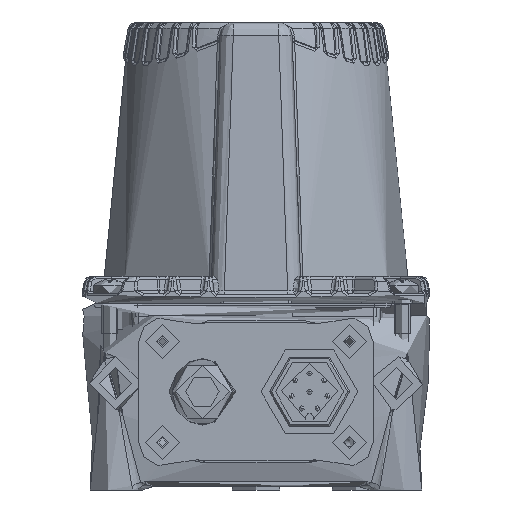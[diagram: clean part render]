
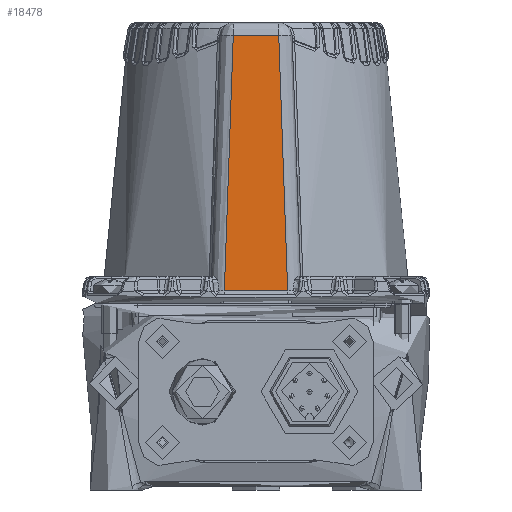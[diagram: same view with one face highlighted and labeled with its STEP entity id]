
A CAD part, front view. The second image highlights one B-rep face of the part: STEP entity #18478.
In plain terms, the highlighted planar face has unit normal (0, -0.999, 0.035).
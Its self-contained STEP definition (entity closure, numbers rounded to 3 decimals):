
#13838=PLANE('',#97572);
#18478=ADVANCED_FACE('',(#24131),#13838,.F.);
#24131=FACE_OUTER_BOUND('',#29354,.T.);
#29354=EDGE_LOOP('',(#44118,#44119,#44120,#44121));
#44118=ORIENTED_EDGE('',*,*,#71689,.T.);
#44119=ORIENTED_EDGE('',*,*,#71654,.T.);
#44120=ORIENTED_EDGE('',*,*,#71681,.T.);
#44121=ORIENTED_EDGE('',*,*,#71674,.T.);
#62637=VERTEX_POINT('',#138309);
#62639=VERTEX_POINT('',#138326);
#62648=VERTEX_POINT('',#138454);
#62649=VERTEX_POINT('',#138456);
#71654=EDGE_CURVE('',#62637,#62639,#83988,.T.);
#71674=EDGE_CURVE('',#62649,#62648,#83992,.T.);
#71681=EDGE_CURVE('',#62639,#62649,#83994,.T.);
#71689=EDGE_CURVE('',#62648,#62637,#84000,.T.);
#83988=LINE('',#138327,#89703);
#83992=LINE('',#138455,#89707);
#83994=LINE('',#138469,#89709);
#84000=LINE('',#138482,#89715);
#89703=VECTOR('',#102734,1.);
#89707=VECTOR('',#102764,1.);
#89709=VECTOR('',#102782,1.);
#89715=VECTOR('',#102798,1.);
#97572=AXIS2_PLACEMENT_3D('',#196547,#106755,#106756);
#102734=DIRECTION('',(1.,0.,0.));
#102764=DIRECTION('',(-1.,0.,0.));
#102782=DIRECTION('',(-0.035,0.034,0.999));
#102798=DIRECTION('',(-0.035,-0.034,-0.999));
#106755=DIRECTION('',(0.,0.999,-0.034));
#106756=DIRECTION('',(0.,-0.034,-0.999));
#138309=CARTESIAN_POINT('',(-4.741,-24.7,-24.882));
#138326=CARTESIAN_POINT('',(4.741,-24.7,-24.882));
#138327=CARTESIAN_POINT('',(4.758,-24.7,-24.882));
#138454=CARTESIAN_POINT('',(-3.405,-23.38,13.369));
#138455=CARTESIAN_POINT('',(0.,-23.38,13.369));
#138456=CARTESIAN_POINT('',(3.405,-23.38,13.369));
#138469=CARTESIAN_POINT('',(3.34,-23.316,15.23));
#138482=CARTESIAN_POINT('',(-4.659,-24.619,-22.536));
#196547=CARTESIAN_POINT('',(0.,-24.625,-22.698));
